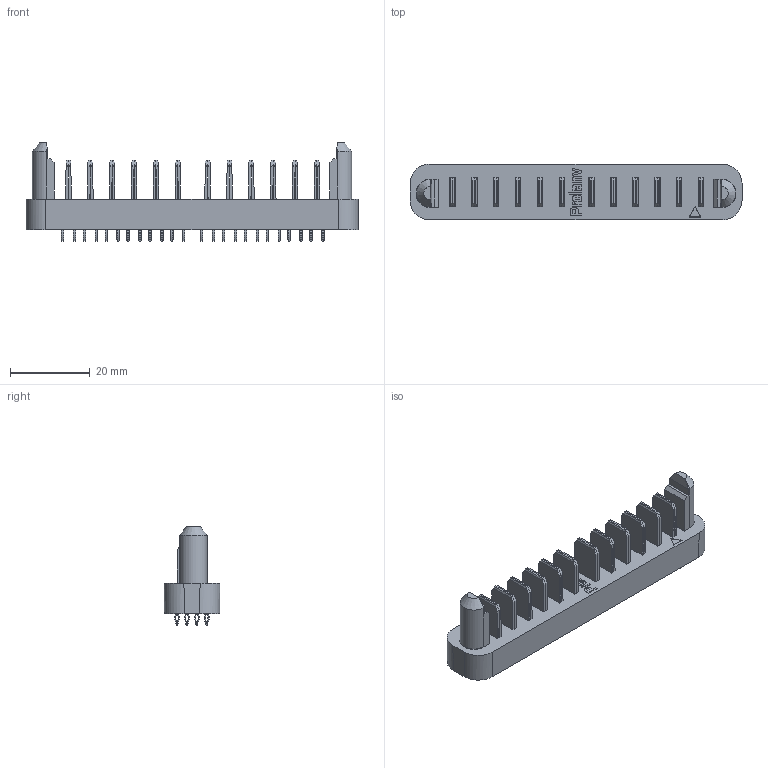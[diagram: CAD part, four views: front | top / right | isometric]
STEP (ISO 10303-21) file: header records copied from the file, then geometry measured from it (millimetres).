
FILE_DESCRIPTION(/* description */ (''),/* implementation_level */ '2;1');
FILE_NAME(/* name */ 'PDC2920F0003-石头档.stp',/* time_stamp */ '2025-01-03T11:56:39+08:00',/* author */ (''),/* organization */ (''),/* preprocessor_version */ 'ST-DEVELOPER v16.7',/* originating_system */ 'SIEMENS PLM Software NX 1946',/* authorisation */ '');
FILE_SCHEMA (('AUTOMOTIVE_DESIGN { 1 0 10303 214 3 1 1 1 }'));
Length unit declared in the file: millimetre
Products named in the file (1): _model1
Bounding box: 83.5 x 14.05 x 24.88 mm (x, y, z)
Volume: 10367.8 mm3; surface area: 9686.7 mm2
Topology: 1 solids, 1 shells, 5462 faces, 13858 edges, 8428 vertices
Faces by surface type: cylinder 2246, plane 1641, torus 1536, extrusion 31, cone 6, bspline 2
Entity records: 202918 total; most frequent: DIRECTION 31421, CARTESIAN_POINT 30299, ORIENTED_EDGE 27716, EDGE_CURVE 13858, AXIS2_PLACEMENT_3D 12620, VERTEX_POINT 8428, CIRCLE 6410, VECTOR 6181
